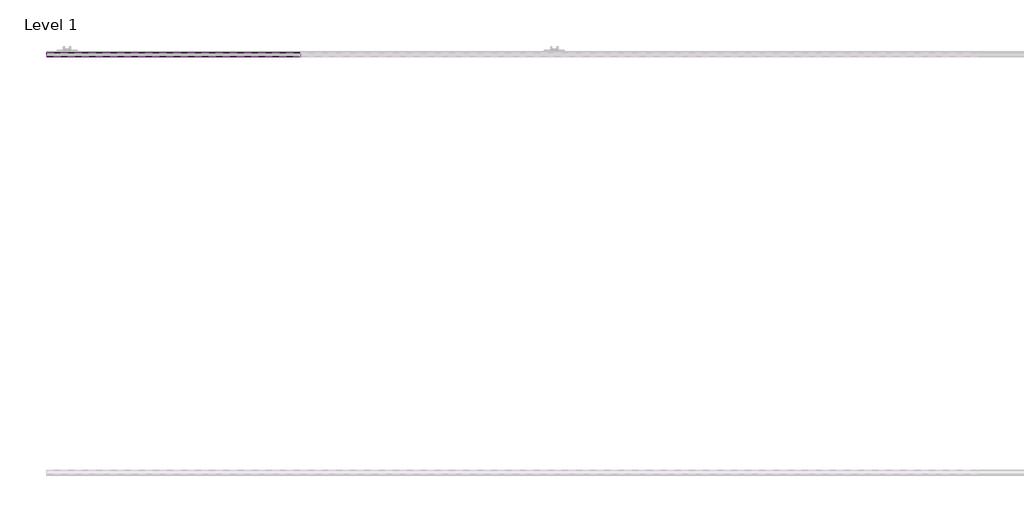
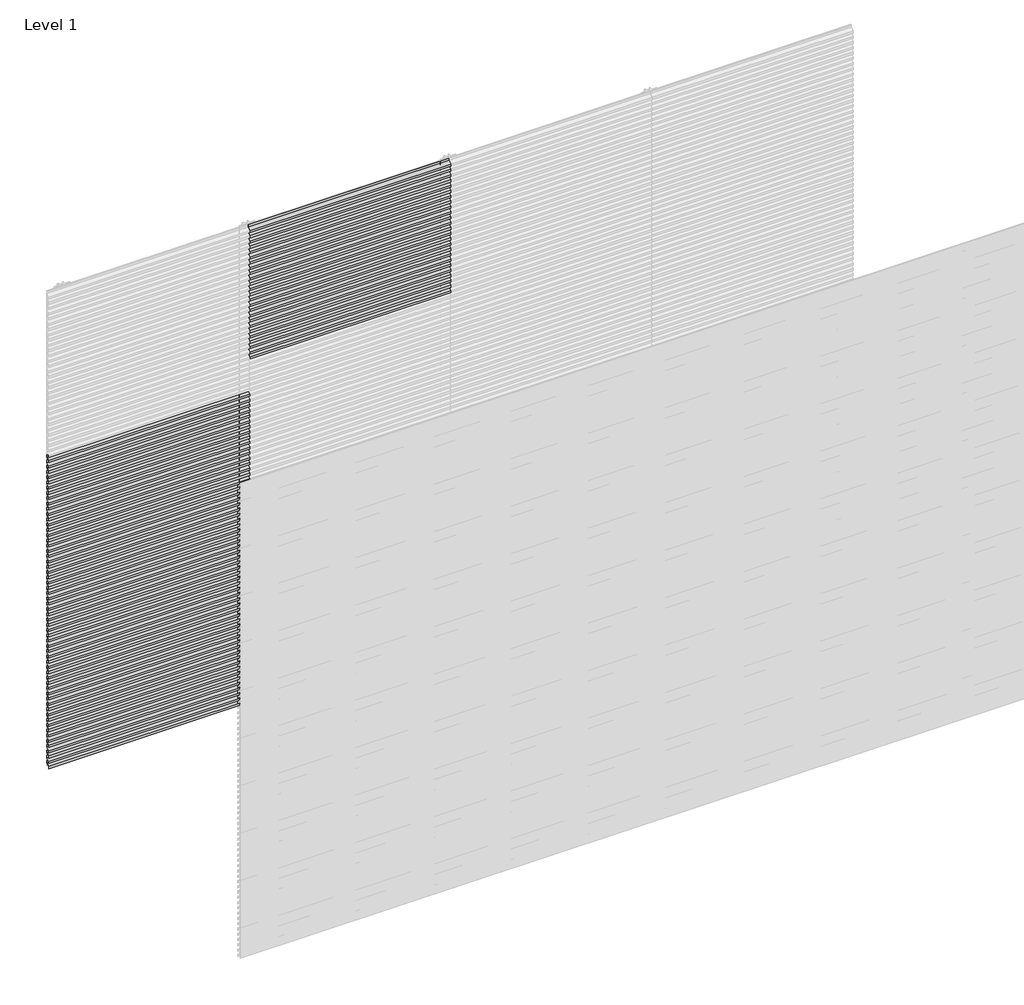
# One storey, part 13 of 507: 84 proxies.
"""IFC4 building model written with IfcOpenShell, lengths in millimetres."""

from ifc_helpers import new_model, si_unit, frame, origin, place, context, project, spatial, polyline, outline, extrude, element, save

model = new_model("IFC4")

# Units and contexts
model_context = context("Model", 3, world=origin())
ifc_project = project(units=[si_unit("LENGTHUNIT", "METRE", prefix="MILLI")], contexts=[model_context])

# Site, building, storey
site = spatial("IfcSite", under=ifc_project)
building = spatial("IfcBuilding", under=site)
storey = spatial("IfcBuildingStorey", under=building, Name="Level 1", Elevation=0.0)

# Proxies
placement = place(None, origin())
element("IfcBuildingElementProxy", 1, Name="Wall Sweeps", at=placement, inside=storey, context=model_context, shape_type="SweptSolid", body=[
    extrude(outline(polyline([(6962.6270068, 1940.7), (6981.7770068, 1951.7562577), (6981.7770068, 1964.7), (6983.0270068, 1964.7), (6983.0270068, 1951.0345698), (6963.8770068, 1939.9782281), (6963.8770068, 1927.9216933), (6962.6270068, 1927.2), (6962.6270068, 1940.7)])), frame((44966.6208097, 0.0, 0.0), z_axis=(1.0, 0.0, 0.0), x_axis=(0.0, 1.0, 0.0)), (0.0, 0.0, 1.0), 1200.0000002),
])
element("IfcBuildingElementProxy", 2, Name="Wall Sweeps", at=placement, inside=storey, context=model_context, shape_type="SweptSolid", body=[
    extrude(outline(polyline([(6962.6270068, 1907.4), (6981.7770068, 1918.4562577), (6981.7770068, 1931.4), (6983.0270068, 1931.4), (6983.0270068, 1917.7345698), (6963.8770068, 1906.6782281), (6963.8770068, 1894.6216933), (6962.6270068, 1893.9), (6962.6270068, 1907.4)])), frame((44966.6208097, 0.0, 0.0), z_axis=(1.0, 0.0, 0.0), x_axis=(0.0, 1.0, 0.0)), (0.0, 0.0, 1.0), 1200.0000002),
])
element("IfcBuildingElementProxy", 3, Name="Wall Sweeps", at=placement, inside=storey, context=model_context, shape_type="SweptSolid", body=[
    extrude(outline(polyline([(6962.6270068, 1874.1), (6981.7770068, 1885.1562577), (6981.7770068, 1898.1), (6983.0270068, 1898.1), (6983.0270068, 1884.4345698), (6963.8770068, 1873.3782281), (6963.8770068, 1861.3216933), (6962.6270068, 1860.6), (6962.6270068, 1874.1)])), frame((44966.6208097, 0.0, 0.0), z_axis=(1.0, 0.0, 0.0), x_axis=(0.0, 1.0, 0.0)), (0.0, 0.0, 1.0), 1200.0000002),
])
element("IfcBuildingElementProxy", 4, Name="Wall Sweeps", at=placement, inside=storey, context=model_context, shape_type="SweptSolid", body=[
    extrude(outline(polyline([(6962.6270068, 1840.8), (6981.7770068, 1851.8562577), (6981.7770068, 1864.8), (6983.0270068, 1864.8), (6983.0270068, 1851.1345698), (6963.8770068, 1840.0782281), (6963.8770068, 1828.0216933), (6962.6270068, 1827.3), (6962.6270068, 1840.8)])), frame((44966.6208097, 0.0, 0.0), z_axis=(1.0, 0.0, 0.0), x_axis=(0.0, 1.0, 0.0)), (0.0, 0.0, 1.0), 1200.0000002),
])
element("IfcBuildingElementProxy", 5, Name="Wall Sweeps", at=placement, inside=storey, context=model_context, shape_type="SweptSolid", body=[
    extrude(outline(polyline([(6962.6270068, 1807.5), (6981.7770068, 1818.5562577), (6981.7770068, 1831.5), (6983.0270068, 1831.5), (6983.0270068, 1817.8345698), (6963.8770068, 1806.7782281), (6963.8770068, 1794.7216933), (6962.6270068, 1794.0), (6962.6270068, 1807.5)])), frame((44966.6208097, 0.0, 0.0), z_axis=(1.0, 0.0, 0.0), x_axis=(0.0, 1.0, 0.0)), (0.0, 0.0, 1.0), 1200.0000002),
])
element("IfcBuildingElementProxy", 6, Name="Wall Sweeps", at=placement, inside=storey, context=model_context, shape_type="SweptSolid", body=[
    extrude(outline(polyline([(6962.6270068, 1774.2), (6981.7770068, 1785.2562577), (6981.7770068, 1798.2), (6983.0270068, 1798.2), (6983.0270068, 1784.5345698), (6963.8770068, 1773.4782281), (6963.8770068, 1761.4216933), (6962.6270068, 1760.7), (6962.6270068, 1774.2)])), frame((44966.6208097, 0.0, 0.0), z_axis=(1.0, 0.0, 0.0), x_axis=(0.0, 1.0, 0.0)), (0.0, 0.0, 1.0), 1200.0000002),
])
element("IfcBuildingElementProxy", 7, Name="Wall Sweeps", at=placement, inside=storey, context=model_context, shape_type="SweptSolid", body=[
    extrude(outline(polyline([(6962.6270068, 1740.9), (6981.7770068, 1751.9562577), (6981.7770068, 1764.9), (6983.0270068, 1764.9), (6983.0270068, 1751.2345698), (6963.8770068, 1740.1782281), (6963.8770068, 1728.1216933), (6962.6270068, 1727.4), (6962.6270068, 1740.9)])), frame((44966.6208097, 0.0, 0.0), z_axis=(1.0, 0.0, 0.0), x_axis=(0.0, 1.0, 0.0)), (0.0, 0.0, 1.0), 1200.0000002),
])
element("IfcBuildingElementProxy", 8, Name="Wall Sweeps", at=placement, inside=storey, context=model_context, shape_type="SweptSolid", body=[
    extrude(outline(polyline([(6962.6270068, 1707.6), (6981.7770068, 1718.6562577), (6981.7770068, 1731.6), (6983.0270068, 1731.6), (6983.0270068, 1717.9345698), (6963.8770068, 1706.8782281), (6963.8770068, 1694.8216933), (6962.6270068, 1694.1), (6962.6270068, 1707.6)])), frame((44966.6208097, 0.0, 0.0), z_axis=(1.0, 0.0, 0.0), x_axis=(0.0, 1.0, 0.0)), (0.0, 0.0, 1.0), 1200.0000002),
])
element("IfcBuildingElementProxy", 9, Name="Wall Sweeps", at=placement, inside=storey, context=model_context, shape_type="SweptSolid", body=[
    extrude(outline(polyline([(6962.6270068, 1674.3), (6981.7770068, 1685.3562577), (6981.7770068, 1698.3), (6983.0270068, 1698.3), (6983.0270068, 1684.6345698), (6963.8770068, 1673.5782281), (6963.8770068, 1661.5216933), (6962.6270068, 1660.8), (6962.6270068, 1674.3)])), frame((44966.6208097, 0.0, 0.0), z_axis=(1.0, 0.0, 0.0), x_axis=(0.0, 1.0, 0.0)), (0.0, 0.0, 1.0), 1200.0000002),
])
element("IfcBuildingElementProxy", 10, Name="Wall Sweeps", at=placement, inside=storey, context=model_context, shape_type="SweptSolid", body=[
    extrude(outline(polyline([(6962.6270068, 1641.0), (6981.7770068, 1652.0562577), (6981.7770068, 1665.0), (6983.0270068, 1665.0), (6983.0270068, 1651.3345698), (6963.8770068, 1640.2782281), (6963.8770068, 1628.2216933), (6962.6270068, 1627.5), (6962.6270068, 1641.0)])), frame((44966.6208097, 0.0, 0.0), z_axis=(1.0, 0.0, 0.0), x_axis=(0.0, 1.0, 0.0)), (0.0, 0.0, 1.0), 1200.0000002),
])
element("IfcBuildingElementProxy", 11, Name="Wall Sweeps", at=placement, inside=storey, context=model_context, shape_type="SweptSolid", body=[
    extrude(outline(polyline([(6962.6270068, 1607.7), (6981.7770068, 1618.7562577), (6981.7770068, 1631.7), (6983.0270068, 1631.7), (6983.0270068, 1618.0345698), (6963.8770068, 1606.9782281), (6963.8770068, 1594.9216933), (6962.6270068, 1594.2), (6962.6270068, 1607.7)])), frame((44966.6208097, 0.0, 0.0), z_axis=(1.0, 0.0, 0.0), x_axis=(0.0, 1.0, 0.0)), (0.0, 0.0, 1.0), 1200.0000002),
])
element("IfcBuildingElementProxy", 12, Name="Wall Sweeps", at=placement, inside=storey, context=model_context, shape_type="SweptSolid", body=[
    extrude(outline(polyline([(6962.6270068, 1574.4), (6981.7770068, 1585.4562577), (6981.7770068, 1598.4), (6983.0270068, 1598.4), (6983.0270068, 1584.7345698), (6963.8770068, 1573.6782281), (6963.8770068, 1561.6216933), (6962.6270068, 1560.9), (6962.6270068, 1574.4)])), frame((44966.6208097, 0.0, 0.0), z_axis=(1.0, 0.0, 0.0), x_axis=(0.0, 1.0, 0.0)), (0.0, 0.0, 1.0), 1200.0000002),
])
element("IfcBuildingElementProxy", 13, Name="Wall Sweeps", at=placement, inside=storey, context=model_context, shape_type="SweptSolid", body=[
    extrude(outline(polyline([(6962.6270068, 1541.1), (6981.7770068, 1552.1562577), (6981.7770068, 1565.1), (6983.0270068, 1565.1), (6983.0270068, 1551.4345698), (6963.8770068, 1540.3782281), (6963.8770068, 1528.3216933), (6962.6270068, 1527.6), (6962.6270068, 1541.1)])), frame((44966.6208097, 0.0, 0.0), z_axis=(1.0, 0.0, 0.0), x_axis=(0.0, 1.0, 0.0)), (0.0, 0.0, 1.0), 1200.0000002),
])
element("IfcBuildingElementProxy", 14, Name="Wall Sweeps", at=placement, inside=storey, context=model_context, shape_type="SweptSolid", body=[
    extrude(outline(polyline([(6962.6270068, 1507.8), (6981.7770068, 1518.8562577), (6981.7770068, 1531.8), (6983.0270068, 1531.8), (6983.0270068, 1518.1345698), (6963.8770068, 1507.0782281), (6963.8770068, 1495.0216933), (6962.6270068, 1494.3), (6962.6270068, 1507.8)])), frame((44966.6208097, 0.0, 0.0), z_axis=(1.0, 0.0, 0.0), x_axis=(0.0, 1.0, 0.0)), (0.0, 0.0, 1.0), 1200.0000002),
])
element("IfcBuildingElementProxy", 15, Name="Wall Sweeps", at=placement, inside=storey, context=model_context, shape_type="SweptSolid", body=[
    extrude(outline(polyline([(6962.6270068, 1474.5), (6981.7770068, 1485.5562577), (6981.7770068, 1498.5), (6983.0270068, 1498.5), (6983.0270068, 1484.8345698), (6963.8770068, 1473.7782281), (6963.8770068, 1461.7216933), (6962.6270068, 1461.0), (6962.6270068, 1474.5)])), frame((44966.6208097, 0.0, 0.0), z_axis=(1.0, 0.0, 0.0), x_axis=(0.0, 1.0, 0.0)), (0.0, 0.0, 1.0), 1200.0000002),
])
element("IfcBuildingElementProxy", 16, Name="Wall Sweeps", at=placement, inside=storey, context=model_context, shape_type="SweptSolid", body=[
    extrude(outline(polyline([(6962.6270068, 1441.2), (6981.7770068, 1452.2562577), (6981.7770068, 1465.2), (6983.0270068, 1465.2), (6983.0270068, 1451.5345698), (6963.8770068, 1440.4782281), (6963.8770068, 1428.4216933), (6962.6270068, 1427.7), (6962.6270068, 1441.2)])), frame((44966.6208097, 0.0, 0.0), z_axis=(1.0, 0.0, 0.0), x_axis=(0.0, 1.0, 0.0)), (0.0, 0.0, 1.0), 1200.0000002),
])
element("IfcBuildingElementProxy", 17, Name="Wall Sweeps", at=placement, inside=storey, context=model_context, shape_type="SweptSolid", body=[
    extrude(outline(polyline([(6962.6270068, 1407.9), (6981.7770068, 1418.9562577), (6981.7770068, 1431.9), (6983.0270068, 1431.9), (6983.0270068, 1418.2345698), (6963.8770068, 1407.1782281), (6963.8770068, 1395.1216933), (6962.6270068, 1394.4), (6962.6270068, 1407.9)])), frame((44966.6208097, 0.0, 0.0), z_axis=(1.0, 0.0, 0.0), x_axis=(0.0, 1.0, 0.0)), (0.0, 0.0, 1.0), 1200.0000002),
])
element("IfcBuildingElementProxy", 18, Name="Wall Sweeps", at=placement, inside=storey, context=model_context, shape_type="SweptSolid", body=[
    extrude(outline(polyline([(6962.6270068, 1374.6), (6981.7770068, 1385.6562577), (6981.7770068, 1398.6), (6983.0270068, 1398.6), (6983.0270068, 1384.9345698), (6963.8770068, 1373.8782281), (6963.8770068, 1361.8216933), (6962.6270068, 1361.1), (6962.6270068, 1374.6)])), frame((44966.6208097, 0.0, 0.0), z_axis=(1.0, 0.0, 0.0), x_axis=(0.0, 1.0, 0.0)), (0.0, 0.0, 1.0), 1200.0000002),
])
element("IfcBuildingElementProxy", 19, Name="Wall Sweeps", at=placement, inside=storey, context=model_context, shape_type="SweptSolid", body=[
    extrude(outline(polyline([(6962.6270068, 1341.3), (6981.7770068, 1352.3562577), (6981.7770068, 1365.3), (6983.0270068, 1365.3), (6983.0270068, 1351.6345698), (6963.8770068, 1340.5782281), (6963.8770068, 1328.5216933), (6962.6270068, 1327.8), (6962.6270068, 1341.3)])), frame((44966.6208097, 0.0, 0.0), z_axis=(1.0, 0.0, 0.0), x_axis=(0.0, 1.0, 0.0)), (0.0, 0.0, 1.0), 1200.0000002),
])
element("IfcBuildingElementProxy", 20, Name="Wall Sweeps", at=placement, inside=storey, context=model_context, shape_type="SweptSolid", body=[
    extrude(outline(polyline([(6962.6270068, 1308.0), (6981.7770068, 1319.0562577), (6981.7770068, 1332.0), (6983.0270068, 1332.0), (6983.0270068, 1318.3345698), (6963.8770068, 1307.2782281), (6963.8770068, 1295.2216933), (6962.6270068, 1294.5), (6962.6270068, 1308.0)])), frame((44966.6208097, 0.0, 0.0), z_axis=(1.0, 0.0, 0.0), x_axis=(0.0, 1.0, 0.0)), (0.0, 0.0, 1.0), 1200.0000002),
])
element("IfcBuildingElementProxy", 21, Name="Wall Sweeps", at=placement, inside=storey, context=model_context, shape_type="SweptSolid", body=[
    extrude(outline(polyline([(6962.6270068, 1274.7), (6981.7770068, 1285.7562577), (6981.7770068, 1298.7), (6983.0270068, 1298.7), (6983.0270068, 1285.0345698), (6963.8770068, 1273.9782281), (6963.8770068, 1261.9216933), (6962.6270068, 1261.2), (6962.6270068, 1274.7)])), frame((44966.6208097, 0.0, 0.0), z_axis=(1.0, 0.0, 0.0), x_axis=(0.0, 1.0, 0.0)), (0.0, 0.0, 1.0), 1200.0000002),
])
element("IfcBuildingElementProxy", 22, Name="Wall Sweeps", at=placement, inside=storey, context=model_context, shape_type="SweptSolid", body=[
    extrude(outline(polyline([(6962.6270068, 1241.4), (6981.7770068, 1252.4562577), (6981.7770068, 1265.4), (6983.0270068, 1265.4), (6983.0270068, 1251.7345698), (6963.8770068, 1240.6782281), (6963.8770068, 1228.6216933), (6962.6270068, 1227.9), (6962.6270068, 1241.4)])), frame((44966.6208097, 0.0, 0.0), z_axis=(1.0, 0.0, 0.0), x_axis=(0.0, 1.0, 0.0)), (0.0, 0.0, 1.0), 1200.0000002),
])
element("IfcBuildingElementProxy", 23, Name="Wall Sweeps", at=placement, inside=storey, context=model_context, shape_type="SweptSolid", body=[
    extrude(outline(polyline([(6962.6270068, 1208.1), (6981.7770068, 1219.1562577), (6981.7770068, 1232.1), (6983.0270068, 1232.1), (6983.0270068, 1218.4345698), (6963.8770068, 1207.3782281), (6963.8770068, 1195.3216933), (6962.6270068, 1194.6), (6962.6270068, 1208.1)])), frame((44966.6208097, 0.0, 0.0), z_axis=(1.0, 0.0, 0.0), x_axis=(0.0, 1.0, 0.0)), (0.0, 0.0, 1.0), 1200.0000002),
])
element("IfcBuildingElementProxy", 24, Name="Wall Sweeps", at=placement, inside=storey, context=model_context, shape_type="SweptSolid", body=[
    extrude(outline(polyline([(6962.6270068, 1174.8), (6981.7770068, 1185.8562577), (6981.7770068, 1198.8), (6983.0270068, 1198.8), (6983.0270068, 1185.1345698), (6963.8770068, 1174.0782281), (6963.8770068, 1162.0216933), (6962.6270068, 1161.3), (6962.6270068, 1174.8)])), frame((44966.6208097, 0.0, 0.0), z_axis=(1.0, 0.0, 0.0), x_axis=(0.0, 1.0, 0.0)), (0.0, 0.0, 1.0), 1200.0000002),
])
element("IfcBuildingElementProxy", 25, Name="Wall Sweeps", at=placement, inside=storey, context=model_context, shape_type="SweptSolid", body=[
    extrude(outline(polyline([(6962.6270068, 1141.5), (6981.7770068, 1152.5562577), (6981.7770068, 1165.5), (6983.0270068, 1165.5), (6983.0270068, 1151.8345698), (6963.8770068, 1140.7782281), (6963.8770068, 1128.7216933), (6962.6270068, 1128.0), (6962.6270068, 1141.5)])), frame((44966.6208097, 0.0, 0.0), z_axis=(1.0, 0.0, 0.0), x_axis=(0.0, 1.0, 0.0)), (0.0, 0.0, 1.0), 1200.0000002),
])
element("IfcBuildingElementProxy", 26, Name="Wall Sweeps", at=placement, inside=storey, context=model_context, shape_type="SweptSolid", body=[
    extrude(outline(polyline([(6962.6270068, 1108.2), (6981.7770068, 1119.2562577), (6981.7770068, 1132.2), (6983.0270068, 1132.2), (6983.0270068, 1118.5345698), (6963.8770068, 1107.4782281), (6963.8770068, 1095.4216933), (6962.6270068, 1094.7), (6962.6270068, 1108.2)])), frame((44966.6208097, 0.0, 0.0), z_axis=(1.0, 0.0, 0.0), x_axis=(0.0, 1.0, 0.0)), (0.0, 0.0, 1.0), 1200.0000002),
])
element("IfcBuildingElementProxy", 27, Name="Wall Sweeps", at=placement, inside=storey, context=model_context, shape_type="SweptSolid", body=[
    extrude(outline(polyline([(6962.6270068, 1074.9), (6981.7770068, 1085.9562577), (6981.7770068, 1098.9), (6983.0270068, 1098.9), (6983.0270068, 1085.2345698), (6963.8770068, 1074.1782281), (6963.8770068, 1062.1216933), (6962.6270068, 1061.4), (6962.6270068, 1074.9)])), frame((44966.6208097, 0.0, 0.0), z_axis=(1.0, 0.0, 0.0), x_axis=(0.0, 1.0, 0.0)), (0.0, 0.0, 1.0), 1200.0000002),
])
element("IfcBuildingElementProxy", 28, Name="Wall Sweeps", at=placement, inside=storey, context=model_context, shape_type="SweptSolid", body=[
    extrude(outline(polyline([(6962.6270068, 1041.6), (6981.7770068, 1052.6562577), (6981.7770068, 1065.6), (6983.0270068, 1065.6), (6983.0270068, 1051.9345698), (6963.8770068, 1040.8782281), (6963.8770068, 1028.8216933), (6962.6270068, 1028.1), (6962.6270068, 1041.6)])), frame((44966.6208097, 0.0, 0.0), z_axis=(1.0, 0.0, 0.0), x_axis=(0.0, 1.0, 0.0)), (0.0, 0.0, 1.0), 1200.0000002),
])
element("IfcBuildingElementProxy", 29, Name="Wall Sweeps", at=placement, inside=storey, context=model_context, shape_type="SweptSolid", body=[
    extrude(outline(polyline([(6962.6270068, 1008.3), (6981.7770068, 1019.3562577), (6981.7770068, 1032.3), (6983.0270068, 1032.3), (6983.0270068, 1018.6345698), (6963.8770068, 1007.5782281), (6963.8770068, 995.5216933), (6962.6270068, 994.8), (6962.6270068, 1008.3)])), frame((44966.6208097, 0.0, 0.0), z_axis=(1.0, 0.0, 0.0), x_axis=(0.0, 1.0, 0.0)), (0.0, 0.0, 1.0), 1200.0000002),
])
element("IfcBuildingElementProxy", 30, Name="Wall Sweeps", at=placement, inside=storey, context=model_context, shape_type="SweptSolid", body=[
    extrude(outline(polyline([(6962.6270068, 975.0), (6981.7770068, 986.0562577), (6981.7770068, 999.0), (6983.0270068, 999.0), (6983.0270068, 985.3345698), (6963.8770068, 974.2782281), (6963.8770068, 962.2216933), (6962.6270068, 961.5), (6962.6270068, 975.0)])), frame((44966.6208097, 0.0, 0.0), z_axis=(1.0, 0.0, 0.0), x_axis=(0.0, 1.0, 0.0)), (0.0, 0.0, 1.0), 1200.0000002),
])
element("IfcBuildingElementProxy", 31, Name="Wall Sweeps", at=placement, inside=storey, context=model_context, shape_type="SweptSolid", body=[
    extrude(outline(polyline([(6962.6270068, 941.7), (6981.7770068, 952.7562577), (6981.7770068, 965.7), (6983.0270068, 965.7), (6983.0270068, 952.0345698), (6963.8770068, 940.9782281), (6963.8770068, 928.9216933), (6962.6270068, 928.2), (6962.6270068, 941.7)])), frame((44966.6208097, 0.0, 0.0), z_axis=(1.0, 0.0, 0.0), x_axis=(0.0, 1.0, 0.0)), (0.0, 0.0, 1.0), 1200.0000002),
])
element("IfcBuildingElementProxy", 32, Name="Wall Sweeps", at=placement, inside=storey, context=model_context, shape_type="SweptSolid", body=[
    extrude(outline(polyline([(6962.6270068, 908.4), (6981.7770068, 919.4562577), (6981.7770068, 932.4), (6983.0270068, 932.4), (6983.0270068, 918.7345698), (6963.8770068, 907.6782281), (6963.8770068, 895.6216933), (6962.6270068, 894.9), (6962.6270068, 908.4)])), frame((44966.6208097, 0.0, 0.0), z_axis=(1.0, 0.0, 0.0), x_axis=(0.0, 1.0, 0.0)), (0.0, 0.0, 1.0), 1200.0000002),
])
element("IfcBuildingElementProxy", 33, Name="Wall Sweeps", at=placement, inside=storey, context=model_context, shape_type="SweptSolid", body=[
    extrude(outline(polyline([(6962.6270068, 875.1), (6981.7770068, 886.1562577), (6981.7770068, 899.1), (6983.0270068, 899.1), (6983.0270068, 885.4345698), (6963.8770068, 874.3782281), (6963.8770068, 862.3216933), (6962.6270068, 861.6), (6962.6270068, 875.1)])), frame((44966.6208097, 0.0, 0.0), z_axis=(1.0, 0.0, 0.0), x_axis=(0.0, 1.0, 0.0)), (0.0, 0.0, 1.0), 1200.0000002),
])
element("IfcBuildingElementProxy", 34, Name="Wall Sweeps", at=placement, inside=storey, context=model_context, shape_type="SweptSolid", body=[
    extrude(outline(polyline([(6962.6270068, 841.8), (6981.7770068, 852.8562577), (6981.7770068, 865.8), (6983.0270068, 865.8), (6983.0270068, 852.1345698), (6963.8770068, 841.0782281), (6963.8770068, 829.0216933), (6962.6270068, 828.3), (6962.6270068, 841.8)])), frame((44966.6208097, 0.0, 0.0), z_axis=(1.0, 0.0, 0.0), x_axis=(0.0, 1.0, 0.0)), (0.0, 0.0, 1.0), 1200.0000002),
])
element("IfcBuildingElementProxy", 35, Name="Wall Sweeps", at=placement, inside=storey, context=model_context, shape_type="SweptSolid", body=[
    extrude(outline(polyline([(6962.6270068, 808.5), (6981.7770068, 819.5562577), (6981.7770068, 832.5), (6983.0270068, 832.5), (6983.0270068, 818.8345698), (6963.8770068, 807.7782281), (6963.8770068, 795.7216933), (6962.6270068, 795.0), (6962.6270068, 808.5)])), frame((44966.6208097, 0.0, 0.0), z_axis=(1.0, 0.0, 0.0), x_axis=(0.0, 1.0, 0.0)), (0.0, 0.0, 1.0), 1200.0000002),
])
element("IfcBuildingElementProxy", 36, Name="Wall Sweeps", at=placement, inside=storey, context=model_context, shape_type="SweptSolid", body=[
    extrude(outline(polyline([(6962.6270068, 775.2), (6981.7770068, 786.2562577), (6981.7770068, 799.2), (6983.0270068, 799.2), (6983.0270068, 785.5345698), (6963.8770068, 774.4782281), (6963.8770068, 762.4216933), (6962.6270068, 761.7), (6962.6270068, 775.2)])), frame((44966.6208097, 0.0, 0.0), z_axis=(1.0, 0.0, 0.0), x_axis=(0.0, 1.0, 0.0)), (0.0, 0.0, 1.0), 1200.0000002),
])
element("IfcBuildingElementProxy", 37, Name="Wall Sweeps", at=placement, inside=storey, context=model_context, shape_type="SweptSolid", body=[
    extrude(outline(polyline([(6962.6270068, 741.9), (6981.7770068, 752.9562577), (6981.7770068, 765.9), (6983.0270068, 765.9), (6983.0270068, 752.2345698), (6963.8770068, 741.1782281), (6963.8770068, 729.1216933), (6962.6270068, 728.4), (6962.6270068, 741.9)])), frame((44966.6208097, 0.0, 0.0), z_axis=(1.0, 0.0, 0.0), x_axis=(0.0, 1.0, 0.0)), (0.0, 0.0, 1.0), 1200.0000002),
])
element("IfcBuildingElementProxy", 38, Name="Wall Sweeps", at=placement, inside=storey, context=model_context, shape_type="SweptSolid", body=[
    extrude(outline(polyline([(6962.6270068, 708.6), (6981.7770068, 719.6562577), (6981.7770068, 732.6), (6983.0270068, 732.6), (6983.0270068, 718.9345698), (6963.8770068, 707.8782281), (6963.8770068, 695.8216933), (6962.6270068, 695.1), (6962.6270068, 708.6)])), frame((44966.6208097, 0.0, 0.0), z_axis=(1.0, 0.0, 0.0), x_axis=(0.0, 1.0, 0.0)), (0.0, 0.0, 1.0), 1200.0000002),
])
element("IfcBuildingElementProxy", 39, Name="Wall Sweeps", at=placement, inside=storey, context=model_context, shape_type="SweptSolid", body=[
    extrude(outline(polyline([(6962.6270068, 675.3), (6981.7770068, 686.3562577), (6981.7770068, 699.3), (6983.0270068, 699.3), (6983.0270068, 685.6345698), (6963.8770068, 674.5782281), (6963.8770068, 662.5216933), (6962.6270068, 661.8), (6962.6270068, 675.3)])), frame((44966.6208097, 0.0, 0.0), z_axis=(1.0, 0.0, 0.0), x_axis=(0.0, 1.0, 0.0)), (0.0, 0.0, 1.0), 1200.0000002),
])
element("IfcBuildingElementProxy", 40, Name="Wall Sweeps", at=placement, inside=storey, context=model_context, shape_type="SweptSolid", body=[
    extrude(outline(polyline([(6962.6270068, 642.0), (6981.7770068, 653.0562577), (6981.7770068, 666.0), (6983.0270068, 666.0), (6983.0270068, 652.3345698), (6963.8770068, 641.2782281), (6963.8770068, 629.2216933), (6962.6270068, 628.5), (6962.6270068, 642.0)])), frame((44966.6208097, 0.0, 0.0), z_axis=(1.0, 0.0, 0.0), x_axis=(0.0, 1.0, 0.0)), (0.0, 0.0, 1.0), 1200.0000002),
])
element("IfcBuildingElementProxy", 41, Name="Wall Sweeps", at=placement, inside=storey, context=model_context, shape_type="SweptSolid", body=[
    extrude(outline(polyline([(6962.6270068, 608.7), (6981.7770068, 619.7562577), (6981.7770068, 632.7), (6983.0270068, 632.7), (6983.0270068, 619.0345698), (6963.8770068, 607.9782281), (6963.8770068, 595.9216933), (6962.6270068, 595.2), (6962.6270068, 608.7)])), frame((44966.6208097, 0.0, 0.0), z_axis=(1.0, 0.0, 0.0), x_axis=(0.0, 1.0, 0.0)), (0.0, 0.0, 1.0), 1200.0000002),
])
element("IfcBuildingElementProxy", 42, Name="Wall Sweeps", at=placement, inside=storey, context=model_context, shape_type="SweptSolid", body=[
    extrude(outline(polyline([(6962.6270068, 575.4), (6981.7770068, 586.4562577), (6981.7770068, 599.4), (6983.0270068, 599.4), (6983.0270068, 585.7345698), (6963.8770068, 574.6782281), (6963.8770068, 562.6216933), (6962.6270068, 561.9), (6962.6270068, 575.4)])), frame((44966.6208097, 0.0, 0.0), z_axis=(1.0, 0.0, 0.0), x_axis=(0.0, 1.0, 0.0)), (0.0, 0.0, 1.0), 1200.0000002),
])
element("IfcBuildingElementProxy", 43, Name="Wall Sweeps", at=placement, inside=storey, context=model_context, shape_type="SweptSolid", body=[
    extrude(outline(polyline([(6962.6270068, 542.1), (6981.7770068, 553.1562577), (6981.7770068, 566.1), (6983.0270068, 566.1), (6983.0270068, 552.4345698), (6963.8770068, 541.3782281), (6963.8770068, 529.3216933), (6962.6270068, 528.6), (6962.6270068, 542.1)])), frame((44966.6208097, 0.0, 0.0), z_axis=(1.0, 0.0, 0.0), x_axis=(0.0, 1.0, 0.0)), (0.0, 0.0, 1.0), 1200.0000002),
])
element("IfcBuildingElementProxy", 44, Name="Wall Sweeps", at=placement, inside=storey, context=model_context, shape_type="SweptSolid", body=[
    extrude(outline(polyline([(6962.6270068, 508.8), (6981.7770068, 519.8562577), (6981.7770068, 532.8), (6983.0270068, 532.8), (6983.0270068, 519.1345698), (6963.8770068, 508.0782281), (6963.8770068, 496.0216933), (6962.6270068, 495.3), (6962.6270068, 508.8)])), frame((44966.6208097, 0.0, 0.0), z_axis=(1.0, 0.0, 0.0), x_axis=(0.0, 1.0, 0.0)), (0.0, 0.0, 1.0), 1200.0000002),
])
element("IfcBuildingElementProxy", 45, Name="Wall Sweeps", at=placement, inside=storey, context=model_context, shape_type="SweptSolid", body=[
    extrude(outline(polyline([(6962.6270068, 475.5), (6981.7770068, 486.5562577), (6981.7770068, 499.5), (6983.0270068, 499.5), (6983.0270068, 485.8345698), (6963.8770068, 474.7782281), (6963.8770068, 462.7216933), (6962.6270068, 462.0), (6962.6270068, 475.5)])), frame((44966.6208097, 0.0, 0.0), z_axis=(1.0, 0.0, 0.0), x_axis=(0.0, 1.0, 0.0)), (0.0, 0.0, 1.0), 1200.0000002),
])
element("IfcBuildingElementProxy", 46, Name="Wall Sweeps", at=placement, inside=storey, context=model_context, shape_type="SweptSolid", body=[
    extrude(outline(polyline([(6962.6270068, 442.2), (6981.7770068, 453.2562577), (6981.7770068, 466.2), (6983.0270068, 466.2), (6983.0270068, 452.5345698), (6963.8770068, 441.4782281), (6963.8770068, 429.4216933), (6962.6270068, 428.7), (6962.6270068, 442.2)])), frame((44966.6208097, 0.0, 0.0), z_axis=(1.0, 0.0, 0.0), x_axis=(0.0, 1.0, 0.0)), (0.0, 0.0, 1.0), 1200.0000002),
])
element("IfcBuildingElementProxy", 47, Name="Wall Sweeps", at=placement, inside=storey, context=model_context, shape_type="SweptSolid", body=[
    extrude(outline(polyline([(6962.6270068, 408.9), (6981.7770068, 419.9562577), (6981.7770068, 432.9), (6983.0270068, 432.9), (6983.0270068, 419.2345698), (6963.8770068, 408.1782281), (6963.8770068, 396.1216933), (6962.6270068, 395.4), (6962.6270068, 408.9)])), frame((44966.6208097, 0.0, 0.0), z_axis=(1.0, 0.0, 0.0), x_axis=(0.0, 1.0, 0.0)), (0.0, 0.0, 1.0), 1200.0000002),
])
element("IfcBuildingElementProxy", 48, Name="Wall Sweeps", at=placement, inside=storey, context=model_context, shape_type="SweptSolid", body=[
    extrude(outline(polyline([(6962.6270068, 375.6), (6981.7770068, 386.6562577), (6981.7770068, 399.6), (6983.0270068, 399.6), (6983.0270068, 385.9345698), (6963.8770068, 374.8782281), (6963.8770068, 362.8216933), (6962.6270068, 362.1), (6962.6270068, 375.6)])), frame((44966.6208097, 0.0, 0.0), z_axis=(1.0, 0.0, 0.0), x_axis=(0.0, 1.0, 0.0)), (0.0, 0.0, 1.0), 1200.0000002),
])
element("IfcBuildingElementProxy", 49, Name="Wall Sweeps", at=placement, inside=storey, context=model_context, shape_type="SweptSolid", body=[
    extrude(outline(polyline([(6962.6270068, 342.3), (6981.7770068, 353.3562577), (6981.7770068, 366.3), (6983.0270068, 366.3), (6983.0270068, 352.6345698), (6963.8770068, 341.5782281), (6963.8770068, 329.5216933), (6962.6270068, 328.8), (6962.6270068, 342.3)])), frame((44966.6208097, 0.0, 0.0), z_axis=(1.0, 0.0, 0.0), x_axis=(0.0, 1.0, 0.0)), (0.0, 0.0, 1.0), 1200.0000002),
])
element("IfcBuildingElementProxy", 50, Name="Wall Sweeps", at=placement, inside=storey, context=model_context, shape_type="SweptSolid", body=[
    extrude(outline(polyline([(6962.6270068, 309.0), (6981.7770068, 320.0562577), (6981.7770068, 333.0), (6983.0270068, 333.0), (6983.0270068, 319.3345698), (6963.8770068, 308.2782281), (6963.8770068, 296.2216933), (6962.6270068, 295.5), (6962.6270068, 309.0)])), frame((44966.6208097, 0.0, 0.0), z_axis=(1.0, 0.0, 0.0), x_axis=(0.0, 1.0, 0.0)), (0.0, 0.0, 1.0), 1200.0000002),
])
element("IfcBuildingElementProxy", 51, Name="Wall Sweeps", at=placement, inside=storey, context=model_context, shape_type="SweptSolid", body=[
    extrude(outline(polyline([(6962.6270068, 275.7), (6981.7770068, 286.7562577), (6981.7770068, 299.7), (6983.0270068, 299.7), (6983.0270068, 286.0345698), (6963.8770068, 274.9782281), (6963.8770068, 262.9216933), (6962.6270068, 262.2), (6962.6270068, 275.7)])), frame((44966.6208097, 0.0, 0.0), z_axis=(1.0, 0.0, 0.0), x_axis=(0.0, 1.0, 0.0)), (0.0, 0.0, 1.0), 1200.0000002),
])
element("IfcBuildingElementProxy", 52, Name="Wall Sweeps", at=placement, inside=storey, context=model_context, shape_type="SweptSolid", body=[
    extrude(outline(polyline([(6962.6270068, 242.4), (6981.7770068, 253.4562577), (6981.7770068, 266.4), (6983.0270068, 266.4), (6983.0270068, 252.7345698), (6963.8770068, 241.6782281), (6963.8770068, 229.6216933), (6962.6270068, 228.9), (6962.6270068, 242.4)])), frame((44966.6208097, 0.0, 0.0), z_axis=(1.0, 0.0, 0.0), x_axis=(0.0, 1.0, 0.0)), (0.0, 0.0, 1.0), 1200.0000002),
])
element("IfcBuildingElementProxy", 53, Name="Wall Sweeps", at=placement, inside=storey, context=model_context, shape_type="SweptSolid", body=[
    extrude(outline(polyline([(6962.6270068, 209.1), (6981.7770068, 220.1562577), (6981.7770068, 233.1), (6983.0270068, 233.1), (6983.0270068, 219.4345698), (6963.8770068, 208.3782281), (6963.8770068, 196.3216933), (6962.6270068, 195.6), (6962.6270068, 209.1)])), frame((44966.6208097, 0.0, 0.0), z_axis=(1.0, 0.0, 0.0), x_axis=(0.0, 1.0, 0.0)), (0.0, 0.0, 1.0), 1200.0000002),
])
element("IfcBuildingElementProxy", 54, Name="Wall Sweeps", at=placement, inside=storey, context=model_context, shape_type="SweptSolid", body=[
    extrude(outline(polyline([(6962.6270068, 175.8), (6981.7770068, 186.8562577), (6981.7770068, 199.8), (6983.0270068, 199.8), (6983.0270068, 186.1345698), (6963.8770068, 175.0782281), (6963.8770068, 163.0216933), (6962.6270068, 162.3), (6962.6270068, 175.8)])), frame((44966.6208097, 0.0, 0.0), z_axis=(1.0, 0.0, 0.0), x_axis=(0.0, 1.0, 0.0)), (0.0, 0.0, 1.0), 1200.0000002),
])
element("IfcBuildingElementProxy", 55, Name="Wall Sweeps", at=placement, inside=storey, context=model_context, shape_type="SweptSolid", body=[
    extrude(outline(polyline([(6962.6270068, 142.5), (6981.7770068, 153.5562577), (6981.7770068, 166.5), (6983.0270068, 166.5), (6983.0270068, 152.8345698), (6963.8770068, 141.7782281), (6963.8770068, 129.7216933), (6962.6270068, 129.0), (6962.6270068, 142.5)])), frame((44966.6208097, 0.0, 0.0), z_axis=(1.0, 0.0, 0.0), x_axis=(0.0, 1.0, 0.0)), (0.0, 0.0, 1.0), 1200.0000002),
])
element("IfcBuildingElementProxy", 56, Name="Wall Sweeps", at=placement, inside=storey, context=model_context, shape_type="SweptSolid", body=[
    extrude(outline(polyline([(6962.6270068, 109.2), (6981.7770068, 120.2562577), (6981.7770068, 133.2), (6983.0270068, 133.2), (6983.0270068, 119.5345698), (6963.8770068, 108.4782281), (6963.8770068, 96.4216933), (6962.6270068, 95.7), (6962.6270068, 109.2)])), frame((44966.6208097, 0.0, 0.0), z_axis=(1.0, 0.0, 0.0), x_axis=(0.0, 1.0, 0.0)), (0.0, 0.0, 1.0), 1200.0000002),
])
element("IfcBuildingElementProxy", 57, Name="Wall Sweeps", at=placement, inside=storey, context=model_context, shape_type="SweptSolid", body=[
    extrude(outline(polyline([(6962.6270068, 75.9), (6981.7770068, 86.9562577), (6981.7770068, 99.9), (6983.0270068, 99.9), (6983.0270068, 86.2345698), (6963.8770068, 75.1782281), (6963.8770068, 63.1216933), (6962.6270068, 62.4), (6962.6270068, 75.9)])), frame((44966.6208097, 0.0, 0.0), z_axis=(1.0, 0.0, 0.0), x_axis=(0.0, 1.0, 0.0)), (0.0, 0.0, 1.0), 1200.0000002),
])
element("IfcBuildingElementProxy", 58, Name="Wall Sweeps", at=placement, inside=storey, context=model_context, shape_type="SweptSolid", body=[
    extrude(outline(polyline([(6962.6270068, 42.6), (6981.7770068, 53.6562577), (6981.7770068, 66.6), (6983.0270068, 66.6), (6983.0270068, 52.9345698), (6963.8770068, 41.8782281), (6963.8770068, 29.8216933), (6962.6270068, 29.1), (6962.6270068, 42.6)])), frame((44966.6208097, 0.0, 0.0), z_axis=(1.0, 0.0, 0.0), x_axis=(0.0, 1.0, 0.0)), (0.0, 0.0, 1.0), 1200.0000002),
])
element("IfcBuildingElementProxy", 59, Name="Wall Sweeps", at=placement, inside=storey, context=model_context, shape_type="SweptSolid", body=[
    extrude(outline(polyline([(6962.6270068, 9.3), (6981.7770068, 20.3562577), (6981.7770068, 33.3), (6983.0270068, 33.3), (6983.0270068, 19.6345698), (6963.8770068, 8.5782281), (6963.8770068, -3.4783067), (6962.6270068, -4.2), (6962.6270068, 9.3)])), frame((44966.6208097, 0.0, 0.0), z_axis=(1.0, 0.0, 0.0), x_axis=(0.0, 1.0, 0.0)), (0.0, 0.0, 1.0), 1200.0000002),
])
element("IfcBuildingElementProxy", 60, Name="Wall Sweeps", at=placement, inside=storey, context=model_context, shape_type="SweptSolid", body=[
    extrude(outline(polyline([(6962.6270068, 2973.0), (6981.7770068, 2984.0562577), (6981.7770068, 2997.0), (6983.0270068, 2997.0), (6983.0270068, 2983.3345698), (6963.8770068, 2972.2782281), (6963.8770068, 2960.2216933), (6962.6270068, 2959.5), (6962.6270068, 2973.0)])), frame((46166.6208099, 0.0, 0.0), z_axis=(1.0, 0.0, 0.0), x_axis=(0.0, 1.0, 0.0)), (0.0, 0.0, 1.0), 1199.9999999),
])
element("IfcBuildingElementProxy", 61, Name="Wall Sweeps", at=placement, inside=storey, context=model_context, shape_type="SweptSolid", body=[
    extrude(outline(polyline([(6962.6270068, 2939.7), (6981.7770068, 2950.7562577), (6981.7770068, 2963.7), (6983.0270068, 2963.7), (6983.0270068, 2950.0345698), (6963.8770068, 2938.9782281), (6963.8770068, 2926.9216933), (6962.6270068, 2926.2), (6962.6270068, 2939.7)])), frame((46166.6208099, 0.0, 0.0), z_axis=(1.0, 0.0, 0.0), x_axis=(0.0, 1.0, 0.0)), (0.0, 0.0, 1.0), 1199.9999999),
])
element("IfcBuildingElementProxy", 62, Name="Wall Sweeps", at=placement, inside=storey, context=model_context, shape_type="SweptSolid", body=[
    extrude(outline(polyline([(6962.6270068, 2906.4), (6981.7770068, 2917.4562577), (6981.7770068, 2930.4), (6983.0270068, 2930.4), (6983.0270068, 2916.7345698), (6963.8770068, 2905.6782281), (6963.8770068, 2893.6216933), (6962.6270068, 2892.9), (6962.6270068, 2906.4)])), frame((46166.6208099, 0.0, 0.0), z_axis=(1.0, 0.0, 0.0), x_axis=(0.0, 1.0, 0.0)), (0.0, 0.0, 1.0), 1199.9999999),
])
element("IfcBuildingElementProxy", 63, Name="Wall Sweeps", at=placement, inside=storey, context=model_context, shape_type="SweptSolid", body=[
    extrude(outline(polyline([(6962.6270068, 2873.1), (6981.7770068, 2884.1562577), (6981.7770068, 2897.1), (6983.0270068, 2897.1), (6983.0270068, 2883.4345698), (6963.8770068, 2872.3782281), (6963.8770068, 2860.3216933), (6962.6270068, 2859.6), (6962.6270068, 2873.1)])), frame((46166.6208099, 0.0, 0.0), z_axis=(1.0, 0.0, 0.0), x_axis=(0.0, 1.0, 0.0)), (0.0, 0.0, 1.0), 1199.9999999),
])
element("IfcBuildingElementProxy", 64, Name="Wall Sweeps", at=placement, inside=storey, context=model_context, shape_type="SweptSolid", body=[
    extrude(outline(polyline([(6962.6270068, 2839.8), (6981.7770068, 2850.8562577), (6981.7770068, 2863.8), (6983.0270068, 2863.8), (6983.0270068, 2850.1345698), (6963.8770068, 2839.0782281), (6963.8770068, 2827.0216933), (6962.6270068, 2826.3), (6962.6270068, 2839.8)])), frame((46166.6208099, 0.0, 0.0), z_axis=(1.0, 0.0, 0.0), x_axis=(0.0, 1.0, 0.0)), (0.0, 0.0, 1.0), 1199.9999999),
])
element("IfcBuildingElementProxy", 65, Name="Wall Sweeps", at=placement, inside=storey, context=model_context, shape_type="SweptSolid", body=[
    extrude(outline(polyline([(6962.6270068, 2806.5), (6981.7770068, 2817.5562577), (6981.7770068, 2830.5), (6983.0270068, 2830.5), (6983.0270068, 2816.8345698), (6963.8770068, 2805.7782281), (6963.8770068, 2793.7216933), (6962.6270068, 2793.0), (6962.6270068, 2806.5)])), frame((46166.6208099, 0.0, 0.0), z_axis=(1.0, 0.0, 0.0), x_axis=(0.0, 1.0, 0.0)), (0.0, 0.0, 1.0), 1199.9999999),
])
element("IfcBuildingElementProxy", 66, Name="Wall Sweeps", at=placement, inside=storey, context=model_context, shape_type="SweptSolid", body=[
    extrude(outline(polyline([(6962.6270068, 2773.2), (6981.7770068, 2784.2562577), (6981.7770068, 2797.2), (6983.0270068, 2797.2), (6983.0270068, 2783.5345698), (6963.8770068, 2772.4782281), (6963.8770068, 2760.4216933), (6962.6270068, 2759.7), (6962.6270068, 2773.2)])), frame((46166.6208099, 0.0, 0.0), z_axis=(1.0, 0.0, 0.0), x_axis=(0.0, 1.0, 0.0)), (0.0, 0.0, 1.0), 1199.9999999),
])
element("IfcBuildingElementProxy", 67, Name="Wall Sweeps", at=placement, inside=storey, context=model_context, shape_type="SweptSolid", body=[
    extrude(outline(polyline([(6962.6270068, 2739.9), (6981.7770068, 2750.9562577), (6981.7770068, 2763.9), (6983.0270068, 2763.9), (6983.0270068, 2750.2345698), (6963.8770068, 2739.1782281), (6963.8770068, 2727.1216933), (6962.6270068, 2726.4), (6962.6270068, 2739.9)])), frame((46166.6208099, 0.0, 0.0), z_axis=(1.0, 0.0, 0.0), x_axis=(0.0, 1.0, 0.0)), (0.0, 0.0, 1.0), 1199.9999999),
])
element("IfcBuildingElementProxy", 68, Name="Wall Sweeps", at=placement, inside=storey, context=model_context, shape_type="SweptSolid", body=[
    extrude(outline(polyline([(6962.6270068, 2706.6), (6981.7770068, 2717.6562577), (6981.7770068, 2730.6), (6983.0270068, 2730.6), (6983.0270068, 2716.9345698), (6963.8770068, 2705.8782281), (6963.8770068, 2693.8216933), (6962.6270068, 2693.1), (6962.6270068, 2706.6)])), frame((46166.6208099, 0.0, 0.0), z_axis=(1.0, 0.0, 0.0), x_axis=(0.0, 1.0, 0.0)), (0.0, 0.0, 1.0), 1199.9999999),
])
element("IfcBuildingElementProxy", 69, Name="Wall Sweeps", at=placement, inside=storey, context=model_context, shape_type="SweptSolid", body=[
    extrude(outline(polyline([(6962.6270068, 2673.3), (6981.7770068, 2684.3562577), (6981.7770068, 2697.3), (6983.0270068, 2697.3), (6983.0270068, 2683.6345698), (6963.8770068, 2672.5782281), (6963.8770068, 2660.5216933), (6962.6270068, 2659.8), (6962.6270068, 2673.3)])), frame((46166.6208099, 0.0, 0.0), z_axis=(1.0, 0.0, 0.0), x_axis=(0.0, 1.0, 0.0)), (0.0, 0.0, 1.0), 1199.9999999),
])
element("IfcBuildingElementProxy", 70, Name="Wall Sweeps", at=placement, inside=storey, context=model_context, shape_type="SweptSolid", body=[
    extrude(outline(polyline([(6962.6270068, 2640.0), (6981.7770068, 2651.0562577), (6981.7770068, 2664.0), (6983.0270068, 2664.0), (6983.0270068, 2650.3345698), (6963.8770068, 2639.2782281), (6963.8770068, 2627.2216933), (6962.6270068, 2626.5), (6962.6270068, 2640.0)])), frame((46166.6208099, 0.0, 0.0), z_axis=(1.0, 0.0, 0.0), x_axis=(0.0, 1.0, 0.0)), (0.0, 0.0, 1.0), 1199.9999999),
])
element("IfcBuildingElementProxy", 71, Name="Wall Sweeps", at=placement, inside=storey, context=model_context, shape_type="SweptSolid", body=[
    extrude(outline(polyline([(6962.6270068, 2606.7), (6981.7770068, 2617.7562577), (6981.7770068, 2630.7), (6983.0270068, 2630.7), (6983.0270068, 2617.0345698), (6963.8770068, 2605.9782281), (6963.8770068, 2593.9216933), (6962.6270068, 2593.2), (6962.6270068, 2606.7)])), frame((46166.6208099, 0.0, 0.0), z_axis=(1.0, 0.0, 0.0), x_axis=(0.0, 1.0, 0.0)), (0.0, 0.0, 1.0), 1199.9999999),
])
element("IfcBuildingElementProxy", 72, Name="Wall Sweeps", at=placement, inside=storey, context=model_context, shape_type="SweptSolid", body=[
    extrude(outline(polyline([(6962.6270068, 2573.4), (6981.7770068, 2584.4562577), (6981.7770068, 2597.4), (6983.0270068, 2597.4), (6983.0270068, 2583.7345698), (6963.8770068, 2572.6782281), (6963.8770068, 2560.6216933), (6962.6270068, 2559.9), (6962.6270068, 2573.4)])), frame((46166.6208099, 0.0, 0.0), z_axis=(1.0, 0.0, 0.0), x_axis=(0.0, 1.0, 0.0)), (0.0, 0.0, 1.0), 1199.9999999),
])
element("IfcBuildingElementProxy", 73, Name="Wall Sweeps", at=placement, inside=storey, context=model_context, shape_type="SweptSolid", body=[
    extrude(outline(polyline([(6962.6270068, 2540.1), (6981.7770068, 2551.1562577), (6981.7770068, 2564.1), (6983.0270068, 2564.1), (6983.0270068, 2550.4345698), (6963.8770068, 2539.3782281), (6963.8770068, 2527.3216933), (6962.6270068, 2526.6), (6962.6270068, 2540.1)])), frame((46166.6208099, 0.0, 0.0), z_axis=(1.0, 0.0, 0.0), x_axis=(0.0, 1.0, 0.0)), (0.0, 0.0, 1.0), 1199.9999999),
])
element("IfcBuildingElementProxy", 74, Name="Wall Sweeps", at=placement, inside=storey, context=model_context, shape_type="SweptSolid", body=[
    extrude(outline(polyline([(6962.6270068, 2506.8), (6981.7770068, 2517.8562577), (6981.7770068, 2530.8), (6983.0270068, 2530.8), (6983.0270068, 2517.1345698), (6963.8770068, 2506.0782281), (6963.8770068, 2494.0216933), (6962.6270068, 2493.3), (6962.6270068, 2506.8)])), frame((46166.6208099, 0.0, 0.0), z_axis=(1.0, 0.0, 0.0), x_axis=(0.0, 1.0, 0.0)), (0.0, 0.0, 1.0), 1199.9999999),
])
element("IfcBuildingElementProxy", 75, Name="Wall Sweeps", at=placement, inside=storey, context=model_context, shape_type="SweptSolid", body=[
    extrude(outline(polyline([(6962.6270068, 2473.5), (6981.7770068, 2484.5562577), (6981.7770068, 2497.5), (6983.0270068, 2497.5), (6983.0270068, 2483.8345698), (6963.8770068, 2472.7782281), (6963.8770068, 2460.7216933), (6962.6270068, 2460.0), (6962.6270068, 2473.5)])), frame((46166.6208099, 0.0, 0.0), z_axis=(1.0, 0.0, 0.0), x_axis=(0.0, 1.0, 0.0)), (0.0, 0.0, 1.0), 1199.9999999),
])
element("IfcBuildingElementProxy", 76, Name="Wall Sweeps", at=placement, inside=storey, context=model_context, shape_type="SweptSolid", body=[
    extrude(outline(polyline([(6962.6270068, 2440.2), (6981.7770068, 2451.2562577), (6981.7770068, 2464.2), (6983.0270068, 2464.2), (6983.0270068, 2450.5345698), (6963.8770068, 2439.4782281), (6963.8770068, 2427.4216933), (6962.6270068, 2426.7), (6962.6270068, 2440.2)])), frame((46166.6208099, 0.0, 0.0), z_axis=(1.0, 0.0, 0.0), x_axis=(0.0, 1.0, 0.0)), (0.0, 0.0, 1.0), 1199.9999999),
])
element("IfcBuildingElementProxy", 77, Name="Wall Sweeps", at=placement, inside=storey, context=model_context, shape_type="SweptSolid", body=[
    extrude(outline(polyline([(6962.6270068, 2406.9), (6981.7770068, 2417.9562577), (6981.7770068, 2430.9), (6983.0270068, 2430.9), (6983.0270068, 2417.2345698), (6963.8770068, 2406.1782281), (6963.8770068, 2394.1216933), (6962.6270068, 2393.4), (6962.6270068, 2406.9)])), frame((46166.6208099, 0.0, 0.0), z_axis=(1.0, 0.0, 0.0), x_axis=(0.0, 1.0, 0.0)), (0.0, 0.0, 1.0), 1199.9999999),
])
element("IfcBuildingElementProxy", 78, Name="Wall Sweeps", at=placement, inside=storey, context=model_context, shape_type="SweptSolid", body=[
    extrude(outline(polyline([(6962.6270068, 2373.6), (6981.7770068, 2384.6562577), (6981.7770068, 2397.6), (6983.0270068, 2397.6), (6983.0270068, 2383.9345698), (6963.8770068, 2372.8782281), (6963.8770068, 2360.8216933), (6962.6270068, 2360.1), (6962.6270068, 2373.6)])), frame((46166.6208099, 0.0, 0.0), z_axis=(1.0, 0.0, 0.0), x_axis=(0.0, 1.0, 0.0)), (0.0, 0.0, 1.0), 1199.9999999),
])
element("IfcBuildingElementProxy", 79, Name="Wall Sweeps", at=placement, inside=storey, context=model_context, shape_type="SweptSolid", body=[
    extrude(outline(polyline([(6962.6270068, 2340.3), (6981.7770068, 2351.3562577), (6981.7770068, 2364.3), (6983.0270068, 2364.3), (6983.0270068, 2350.6345698), (6963.8770068, 2339.5782281), (6963.8770068, 2327.5216933), (6962.6270068, 2326.8), (6962.6270068, 2340.3)])), frame((46166.6208099, 0.0, 0.0), z_axis=(1.0, 0.0, 0.0), x_axis=(0.0, 1.0, 0.0)), (0.0, 0.0, 1.0), 1199.9999999),
])
element("IfcBuildingElementProxy", 80, Name="Wall Sweeps", at=placement, inside=storey, context=model_context, shape_type="SweptSolid", body=[
    extrude(outline(polyline([(6962.6270068, 2307.0), (6981.7770068, 2318.0562577), (6981.7770068, 2331.0), (6983.0270068, 2331.0), (6983.0270068, 2317.3345698), (6963.8770068, 2306.2782281), (6963.8770068, 2294.2216933), (6962.6270068, 2293.5), (6962.6270068, 2307.0)])), frame((46166.6208099, 0.0, 0.0), z_axis=(1.0, 0.0, 0.0), x_axis=(0.0, 1.0, 0.0)), (0.0, 0.0, 1.0), 1199.9999999),
])
element("IfcBuildingElementProxy", 81, Name="Wall Sweeps", at=placement, inside=storey, context=model_context, shape_type="SweptSolid", body=[
    extrude(outline(polyline([(6962.6270068, 2273.7), (6981.7770068, 2284.7562577), (6981.7770068, 2297.7), (6983.0270068, 2297.7), (6983.0270068, 2284.0345698), (6963.8770068, 2272.9782281), (6963.8770068, 2260.9216933), (6962.6270068, 2260.2), (6962.6270068, 2273.7)])), frame((46166.6208099, 0.0, 0.0), z_axis=(1.0, 0.0, 0.0), x_axis=(0.0, 1.0, 0.0)), (0.0, 0.0, 1.0), 1199.9999999),
])
element("IfcBuildingElementProxy", 82, Name="Wall Sweeps", at=placement, inside=storey, context=model_context, shape_type="SweptSolid", body=[
    extrude(outline(polyline([(6962.6270068, 2240.4), (6981.7770068, 2251.4562577), (6981.7770068, 2264.4), (6983.0270068, 2264.4), (6983.0270068, 2250.7345698), (6963.8770068, 2239.6782281), (6963.8770068, 2227.6216933), (6962.6270068, 2226.9), (6962.6270068, 2240.4)])), frame((46166.6208099, 0.0, 0.0), z_axis=(1.0, 0.0, 0.0), x_axis=(0.0, 1.0, 0.0)), (0.0, 0.0, 1.0), 1199.9999999),
])
element("IfcBuildingElementProxy", 83, Name="Wall Sweeps", at=placement, inside=storey, context=model_context, shape_type="SweptSolid", body=[
    extrude(outline(polyline([(6962.6270068, 2207.1), (6981.7770068, 2218.1562577), (6981.7770068, 2231.1), (6983.0270068, 2231.1), (6983.0270068, 2217.4345698), (6963.8770068, 2206.3782281), (6963.8770068, 2194.3216933), (6962.6270068, 2193.6), (6962.6270068, 2207.1)])), frame((46166.6208099, 0.0, 0.0), z_axis=(1.0, 0.0, 0.0), x_axis=(0.0, 1.0, 0.0)), (0.0, 0.0, 1.0), 1199.9999999),
])
element("IfcBuildingElementProxy", 84, Name="Wall Sweeps", at=placement, inside=storey, context=model_context, shape_type="SweptSolid", body=[
    extrude(outline(polyline([(6962.6270068, 2173.8), (6981.7770068, 2184.8562577), (6981.7770068, 2197.8), (6983.0270068, 2197.8), (6983.0270068, 2184.1345698), (6963.8770068, 2173.0782281), (6963.8770068, 2161.0216933), (6962.6270068, 2160.3), (6962.6270068, 2173.8)])), frame((46166.6208099, 0.0, 0.0), z_axis=(1.0, 0.0, 0.0), x_axis=(0.0, 1.0, 0.0)), (0.0, 0.0, 1.0), 1199.9999999),
])

save(model, "model.ifc")
